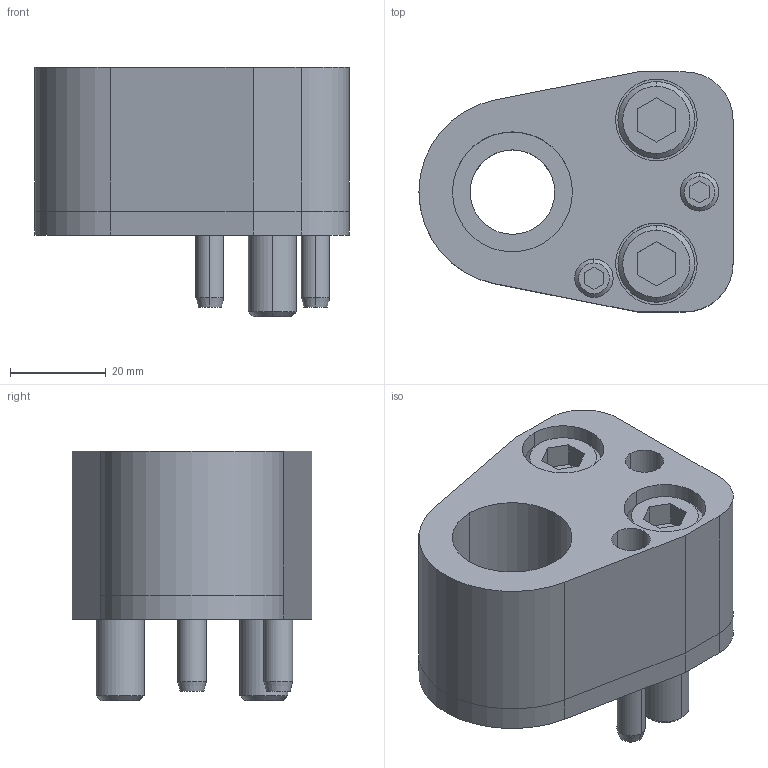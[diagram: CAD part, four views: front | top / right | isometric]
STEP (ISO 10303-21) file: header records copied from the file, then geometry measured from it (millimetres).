
FILE_DESCRIPTION(/* description */ (''),/* implementation_level */ '2;1');
FILE_NAME(/* name */ '3d_cp-ad25_03057_r00.stp',/* time_stamp */ '2011-01-10T14:16:31+09:00',/* author */ ('MISUMI'),/* organization */ (''),/* preprocessor_version */ 'ST-DEVELOPER v11',/* originating_system */ 'UGS - NX 5.0',/* authorisation */ '');
FILE_SCHEMA (('CONFIG_CONTROL_DESIGN'));
Length unit declared in the file: millimetre
Products named in the file (1): 3d_cp-ad25_03057_r00
Bounding box: 65.5 x 50 x 52 mm (x, y, z)
Volume: 77635.3 mm3; surface area: 28907.7 mm2
Topology: 8 solids, 8 shells, 155 faces, 346 edges, 222 vertices
Faces by surface type: plane 67, cylinder 62, cone 26
Entity records: 4474 total; most frequent: DIRECTION 804, CARTESIAN_POINT 772, ORIENTED_EDGE 692, EDGE_CURVE 346, AXIS2_PLACEMENT_3D 306, VERTEX_POINT 222, LINE 192, VECTOR 192
